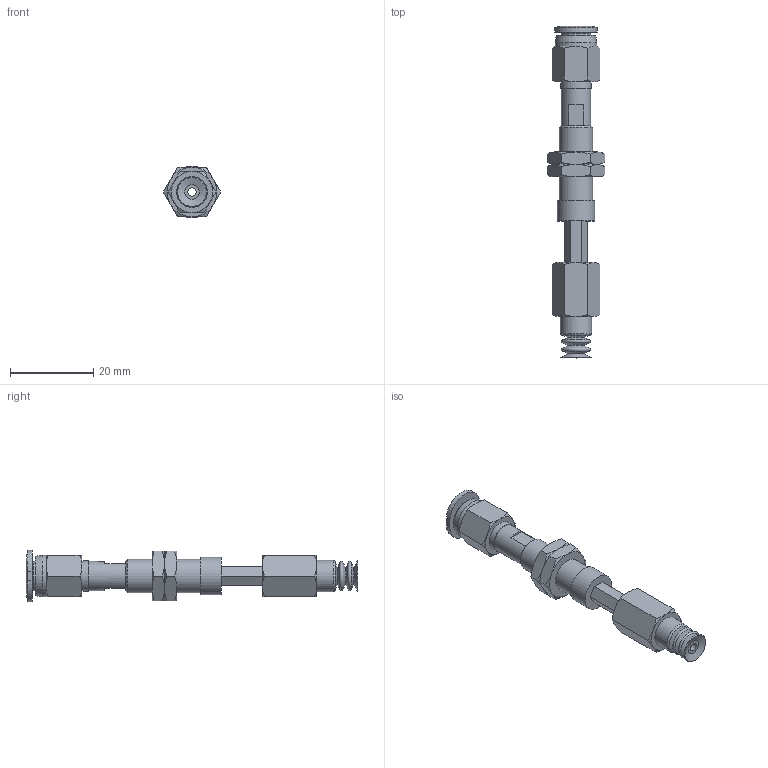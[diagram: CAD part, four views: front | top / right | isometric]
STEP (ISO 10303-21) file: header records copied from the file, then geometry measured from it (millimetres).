
FILE_DESCRIPTION(('STEP AP203'),'1');
FILE_NAME('-O.stp','2025-08-27T01:28:07',(' '),(' '),'Spatial InterOp 3D',' ',' ');
FILE_SCHEMA(('CONFIG_CONTROL_DESIGN'));
Length unit declared in the file: millimetre
Products named in the file (7): BNABPCTH-7-10-※-O; ADAPTER; NAPATH-10A-10--M; Nut napc_h-7-10; NAPCTH-7-10-FBODY; BPCG-7-※; PC-C_06-M5
Assembly tree (7 placements, depth 2):
  BNABPCTH-7-10-※-O
    ADAPTER
    NAPATH-10A-10--M
    Nut napc_h-7-10  x2
    NAPCTH-7-10-FBODY
    BPCG-7-※
    PC-C_06-M5
Bounding box: 13.86 x 79.98 x 12.4 mm (x, y, z)
Volume: 3447.5 mm3; surface area: 5241.5 mm2
Topology: 6 solids, 9 shells, 181 faces, 376 edges, 225 vertices
Faces by surface type: plane 70, cone 66, cylinder 23, torus 15, bspline 4, revolution 3
Full cylindrical faces by diameter (mm): 2 x3, 4 x4, 4.134 x1, 5 x1, 6 x2, 7 x2, 7.188 x2, 7.4 x1, 7.5 x1, 8 x1, 8.2 x1, 9 x1, 10 x1
Entity records: 4632 total; most frequent: CARTESIAN_POINT 1265, DIRECTION 627, ORIENTED_EDGE 536, AXIS2_PLACEMENT_3D 274, EDGE_CURVE 270, EDGE_LOOP 236, VERTEX_POINT 192, FACE_OUTER_BOUND 133
